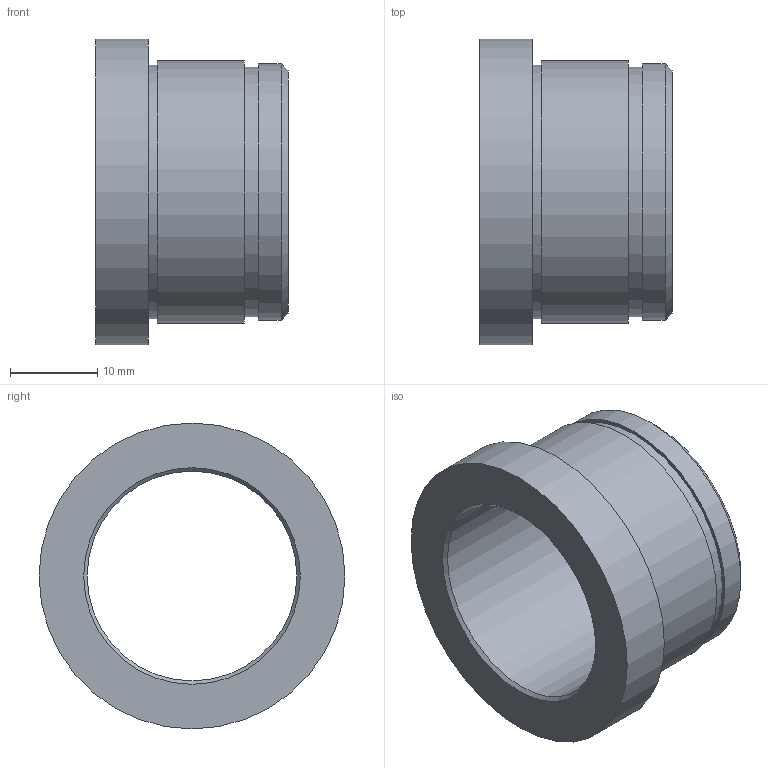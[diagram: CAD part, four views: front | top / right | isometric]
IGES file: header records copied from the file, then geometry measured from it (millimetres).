
Global section: file name: BG05.024022.ipt; native system: Autodesk Inventor 2021; preprocessor: unknown; author: SM; date: 20211221.172734; units: millimetre
Bounding box: 22 x 35 x 35 mm (x, y, z)
Volume: 6844 mm3; surface area: 4915.8 mm2
Topology: 1 solids, 1 shells, 15 faces, 26 edges, 17 vertices
Faces by surface type: plane 6, cylinder 5, revolution 3, cone 1
Full cylindrical faces by diameter (mm): 28.6 x1, 29 x1, 29.4 x1, 30 x1, 35 x1
